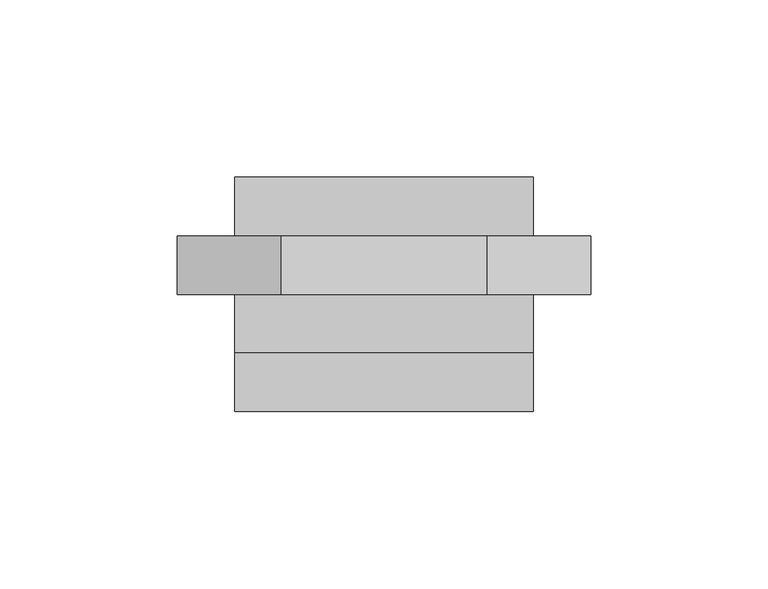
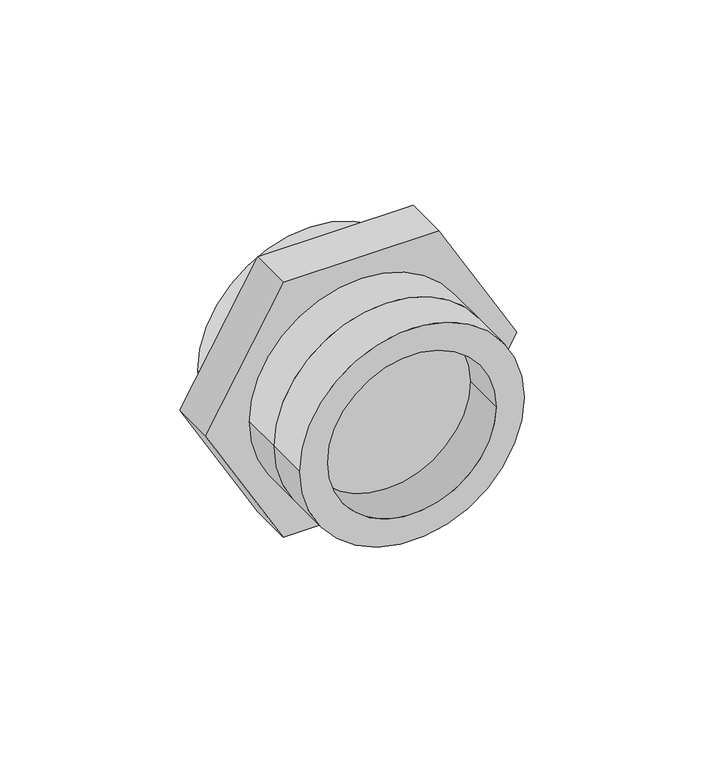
"""IFC4 building model written with IfcOpenShell, lengths in millimetres: pipe fitting geometry, EGB_VASEN_ PPR_Enlace desmontable soldar soldar WXR109 : Enlace desmontable soldar-soldar WXR109."""

from ifc_helpers import new_model, si_unit, point, frame, origin, origin_2d, place, context, project, spatial, polyline, circle_curve, trimmed, segment, composite_curve, outline, extrude, source, transform, mapped, element, save


def pipe_fitting_76aeb010(model_context):
    return source(origin(), model_context, "Body", "SweptSolid", [
        extrude(outline(polyline([(0.0, 58.1969071), (50.4, 29.0984536), (50.4, -29.0984536), (0.0, -58.1969071), (-50.4, -29.0984536), (-50.4, 29.0984536), (0.0, 58.1969071)])), frame((0.0, -4.35625, 0.0), z_axis=(0.0, 1.0, 0.0), x_axis=(0.0, 0.0, 1.0)), (0.0, 0.0, 1.0), 16.5),
        extrude(outline(composite_curve([segment(trimmed(circle_curve(origin_2d(), 42.0), [point((0.0, -42.0))], [point((0.0, 42.0))], False, "CARTESIAN"), True, "CONTINUOUS"), segment(trimmed(circle_curve(origin_2d(), 42.0), [point((0.0, 42.0))], [point((0.0, -42.0))], False, "CARTESIAN"), True, "CONTINUOUS")], self_intersect=False), holes=[composite_curve([segment(trimmed(circle_curve(origin_2d(), 31.5), [point((0.0, -31.5))], [point((0.0, 31.5))], True, "CARTESIAN"), True, "CONTINUOUS"), segment(trimmed(circle_curve(origin_2d(), 31.5), [point((0.0, 31.5))], [point((0.0, -31.5))], True, "CARTESIAN"), True, "CONTINUOUS")], self_intersect=False)]), frame((0.0, -37.35625, 0.0), z_axis=(0.0, 1.0, 0.0), x_axis=(0.0, 0.0, 1.0)), (0.0, 0.0, 1.0), 16.5),
        extrude(outline(composite_curve([segment(trimmed(circle_curve(origin_2d(), 42.0), [point((0.0, -42.0))], [point((0.0, 42.0))], False, "CARTESIAN"), True, "CONTINUOUS"), segment(trimmed(circle_curve(origin_2d(), 42.0), [point((0.0, 42.0))], [point((0.0, -42.0))], False, "CARTESIAN"), True, "CONTINUOUS")], self_intersect=False), holes=[composite_curve([segment(trimmed(circle_curve(origin_2d(), 31.5), [point((0.0, -31.5))], [point((0.0, 31.5))], True, "CARTESIAN"), True, "CONTINUOUS"), segment(trimmed(circle_curve(origin_2d(), 31.5), [point((0.0, 31.5))], [point((0.0, -31.5))], True, "CARTESIAN"), True, "CONTINUOUS")], self_intersect=False)]), frame((0.0, 12.14375, 0.0), z_axis=(0.0, 1.0, 0.0), x_axis=(0.0, 0.0, 1.0)), (0.0, 0.0, 1.0), 16.5),
        extrude(outline(composite_curve([segment(trimmed(circle_curve(origin_2d(), 42.0), [point((0.0, -42.0))], [point((0.0, 42.0))], False, "CARTESIAN"), True, "CONTINUOUS"), segment(trimmed(circle_curve(origin_2d(), 42.0), [point((0.0, 42.0))], [point((0.0, -42.0))], False, "CARTESIAN"), True, "CONTINUOUS")], self_intersect=False)), frame((0.0, -20.85625, 0.0), z_axis=(0.0, 1.0, 0.0), x_axis=(0.0, 0.0, 1.0)), (0.0, 0.0, 1.0), 16.5),
    ])


if __name__ == "__main__":
    model = new_model("IFC4")
    model_context = context("Model", 3, world=origin())
    ifc_project = project(units=[si_unit("LENGTHUNIT", "METRE", prefix="MILLI")], contexts=[model_context])
    site = spatial("IfcSite", under=ifc_project)
    building = spatial("IfcBuilding", under=site)
    placement = place(None, origin())
    pipe_fitting_shape = pipe_fitting_76aeb010(model_context)
    element("IfcPipeFitting", 1, ObjectType="EGB_VASEN_ PPR_Enlace desmontable soldar soldar WXR109 : Enlace desmontable soldar-soldar WXR109", at=placement, inside=building, context=model_context, shape_type="MappedRepresentation", body=[
        mapped(pipe_fitting_shape, transform((0.0, 0.0, 0.0), x_axis=(1.0, 0.0, 0.0), y_axis=(0.0, 1.0, 0.0), z_axis=(0.0, 0.0, 1.0))),
    ])
    save(model, "model.ifc")
